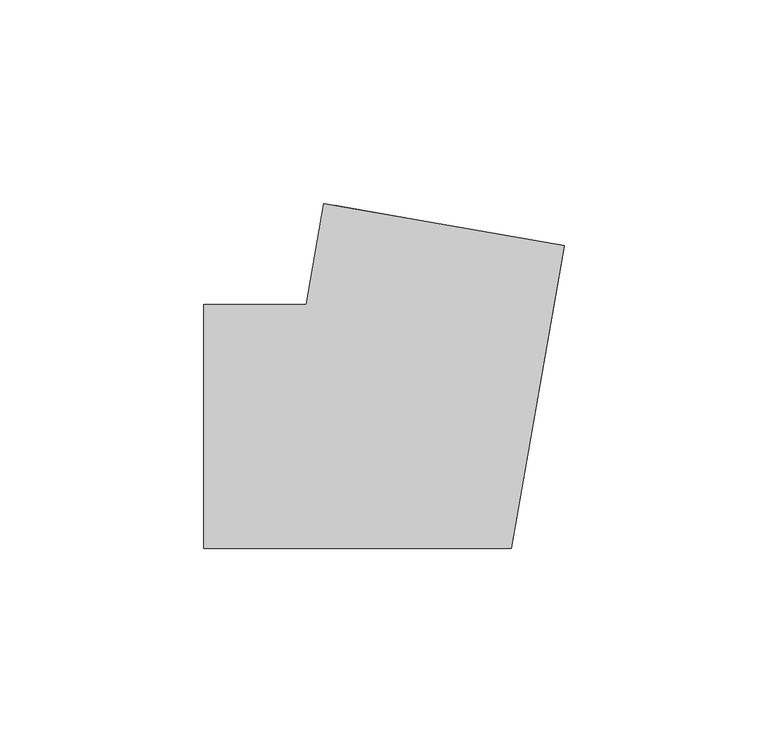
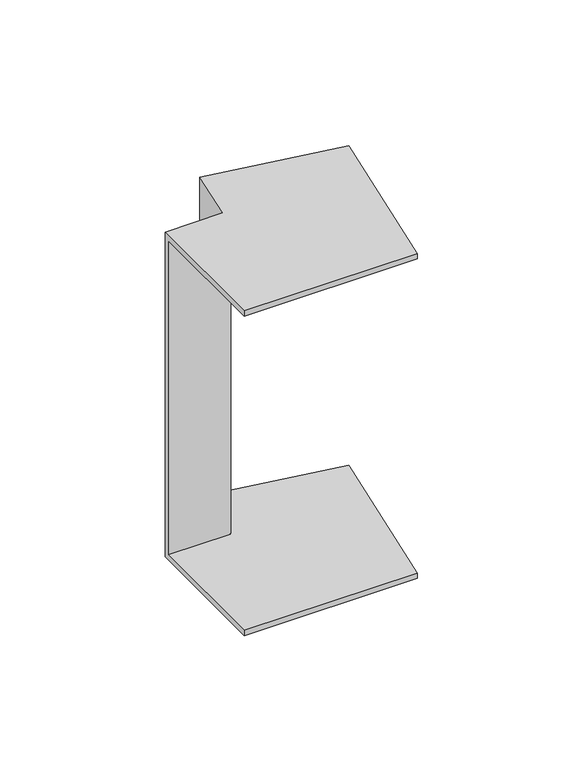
"""IFC4 building model written with IfcOpenShell, lengths in millimetres: cable carrier fitting geometry, КНС_УголВнешний_ILC_DKC : Угол внешний_DKC."""

from ifc_helpers import new_model, si_unit, origin, place, context, project, spatial, faceted_brep, source, transform, mapped, element, save


def cable_carrier_fitting_e4d8e6e0(model_context):
    return source(origin(), model_context, "Body", "Brep", [
        faceted_brep([(-50.3459779, 30.0, 75.0), (-50.3459779, 30.0, -75.0), (-50.3459779, -30.0, -75.0), (-50.3459779, -30.0, -72.5), (-50.3459779, 27.5, -72.5), (-50.3459779, 27.5, 72.5), (-50.3459779, -30.0, 72.5), (-50.3459779, -30.0, 75.0), (-20.8017453, 54.7905547, 75.0), (38.2867199, 44.371664, 75.0), (38.2867199, 44.371664, 72.5), (-18.3397259, 54.3564342, 72.5), (-18.3397259, 54.3564342, -72.5), (38.2867199, 44.371664, -72.5), (38.2867199, 44.371664, -75.0), (-20.8017453, 54.7905547, -75.0), (-25.1729889, 30.0, 75.0), (-25.1729889, 30.0, -75.0), (25.1729889, -30.0, -75.0), (25.1729889, -30.0, -72.5), (-23.0752399, 27.5, -72.5), (-23.0752399, 27.5, 72.5), (25.1729889, -30.0, 72.5), (25.1729889, -30.0, 75.0)], [[[0, 1, 2, 3, 4, 5, 6, 7]], [[8, 9, 10, 11, 12, 13, 14, 15]], [[1, 0, 16, 17]], [[2, 1, 17, 15, 14, 18]], [[3, 2, 18, 19]], [[4, 3, 19, 13, 12, 20]], [[5, 4, 20, 21]], [[6, 5, 21, 11, 10, 22]], [[7, 6, 22, 23]], [[0, 7, 23, 9, 8, 16]], [[17, 16, 8, 15]], [[19, 18, 14, 13]], [[21, 20, 12, 11]], [[23, 22, 10, 9]]]),
    ])


if __name__ == "__main__":
    model = new_model("IFC4")
    model_context = context("Model", 3, world=origin())
    ifc_project = project(units=[si_unit("LENGTHUNIT", "METRE", prefix="MILLI")], contexts=[model_context])
    site = spatial("IfcSite", under=ifc_project)
    building = spatial("IfcBuilding", under=site)
    placement = place(None, origin())
    cable_carrier_fitting_shape = cable_carrier_fitting_e4d8e6e0(model_context)
    element("IfcCableCarrierFitting", 1, ObjectType="КНС_УголВнешний_ILC_DKC : Угол внешний_DKC", at=placement, inside=building, context=model_context, shape_type="MappedRepresentation", body=[
        mapped(cable_carrier_fitting_shape, transform((0.0, 0.0, 0.0), x_axis=(1.0, 0.0, 0.0), y_axis=(0.0, 1.0, 0.0), z_axis=(0.0, 0.0, 1.0))),
    ])
    save(model, "model.ifc")
